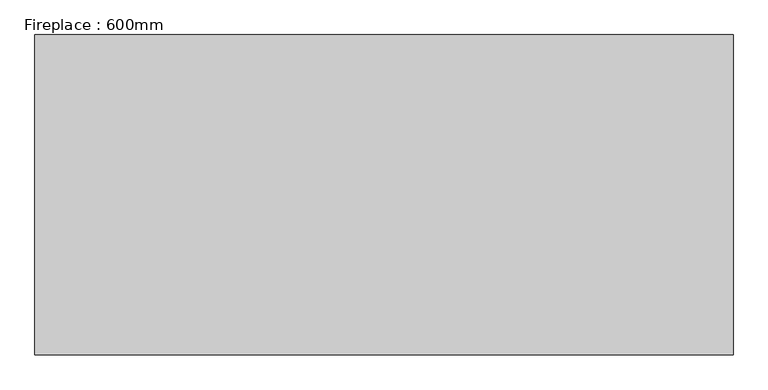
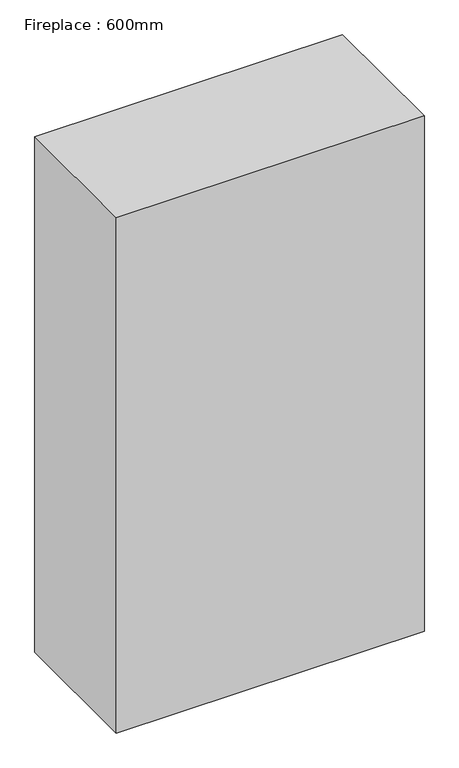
"""IFC4 building model written with IfcOpenShell, lengths in millimetres: proxy geometry, Fireplace : 600mm."""

from ifc_helpers import new_model, si_unit, origin, origin_with_axes, place, context, project, spatial, polyline, outline, extrude, source, transform, mapped, element, save


def fireplace_600mm_c69b326b(model_context):
    return source(origin(), model_context, "Body", "SweptSolid", [
        extrude(outline(polyline([(574.675, -100.0), (574.675, -627.05), (-574.675, -627.05), (-574.675, -100.0), (574.675, -100.0)])), origin_with_axes(), (0.0, 0.0, 1.0), 2032.0),
    ])


if __name__ == "__main__":
    model = new_model("IFC4")
    model_context = context("Model", 3, world=origin())
    ifc_project = project(units=[si_unit("LENGTHUNIT", "METRE", prefix="MILLI")], contexts=[model_context])
    site = spatial("IfcSite", under=ifc_project)
    building = spatial("IfcBuilding", under=site)
    placement = place(None, origin())
    fireplace_600mm_shape = fireplace_600mm_c69b326b(model_context)
    element("IfcBuildingElementProxy", 1, Name="Fireplace : 600mm", ObjectType="Fireplace : 600mm", at=placement, inside=building, context=model_context, shape_type="MappedRepresentation", body=[
        mapped(fireplace_600mm_shape, transform((0.0, 0.0, 0.0), x_axis=(1.0, 0.0, 0.0), y_axis=(0.0, 1.0, 0.0), z_axis=(0.0, 0.0, 1.0))),
    ])
    save(model, "model.ifc")
